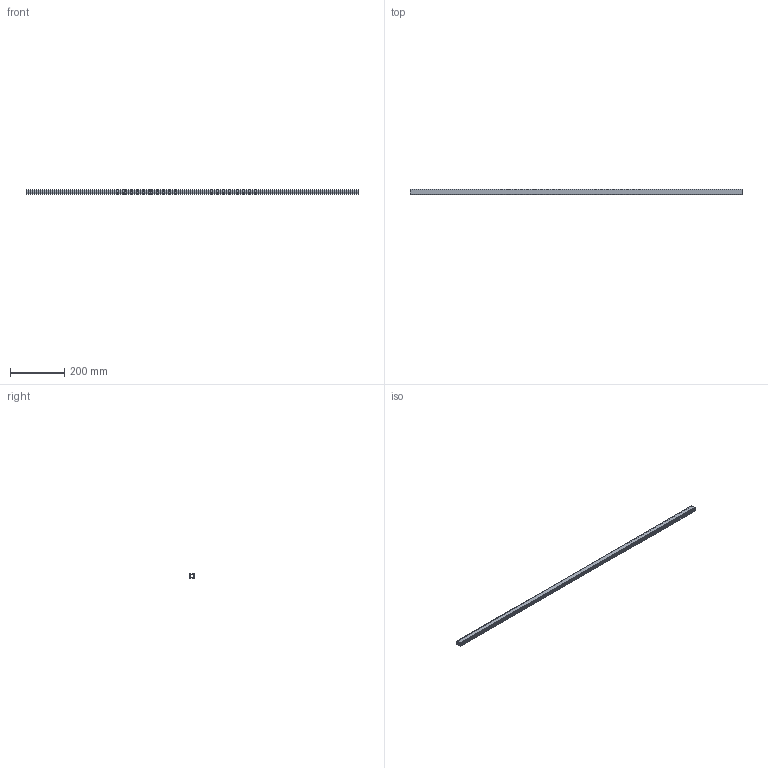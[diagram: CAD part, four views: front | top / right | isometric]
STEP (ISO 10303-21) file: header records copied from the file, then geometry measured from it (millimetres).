
FILE_DESCRIPTION((''),'2;1');
FILE_NAME('GTB13A04','2016-07-15T',('adam.dellomodarme'),(''),'PRO/ENGINEER BY PARAMETRIC TECHNOLOGY CORPORATION, 2012420','PRO/ENGINEER BY PARAMETRIC TECHNOLOGY CORPORATION, 2012420','');
FILE_SCHEMA(('CONFIG_CONTROL_DESIGN'));
Length unit declared in the file: inch
Products named in the file (1): GTB13A04
Bounding box: 1219.2 x 19.28 x 15 mm (x, y, z)
Volume: 153520.3 mm3; surface area: 145255.6 mm2
Topology: 1 solids, 1 shells, 34 faces, 96 edges, 64 vertices
Faces by surface type: cylinder 24, plane 10
Entity records: 1230 total; most frequent: CARTESIAN_POINT 348, ORIENTED_EDGE 192, DIRECTION 148, EDGE_CURVE 96, VERTEX_POINT 64, AXIS2_PLACEMENT_3D 50, VECTOR 48, LINE 48
